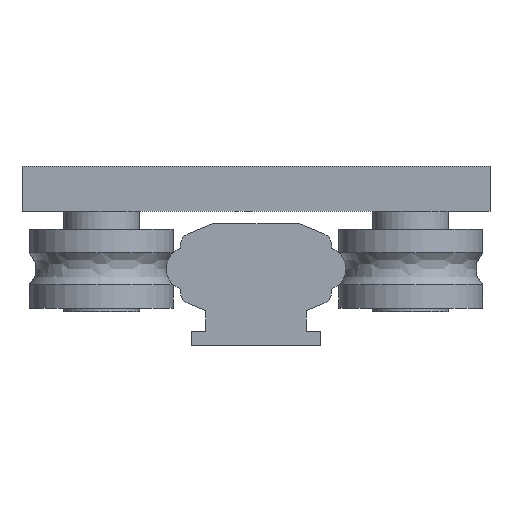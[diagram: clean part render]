
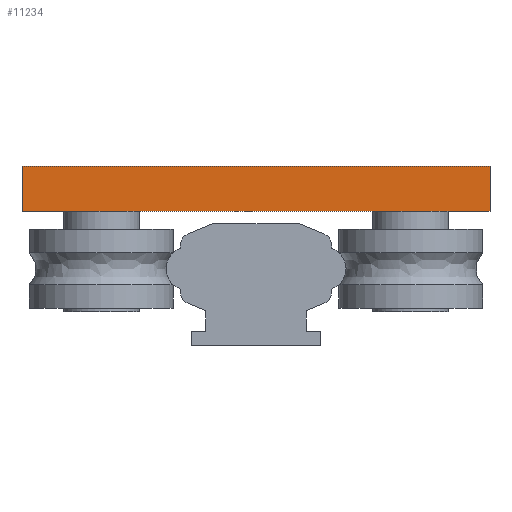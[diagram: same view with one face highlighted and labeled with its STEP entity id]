
A CAD part, left-side view. The second image highlights one B-rep face of the part: STEP entity #11234.
In plain terms, the highlighted planar face has unit normal (-1, 0, 0).
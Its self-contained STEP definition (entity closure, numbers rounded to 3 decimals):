
#11054=CARTESIAN_POINT('',(0.0,-32.5,14.25));
#11055=VERTEX_POINT('',#11054);
#11062=CARTESIAN_POINT('',(0.0,-32.5,8.0));
#11063=VERTEX_POINT('',#11062);
#11064=CARTESIAN_POINT('',(0.0,-32.5,14.25));
#11065=DIRECTION('',(0.0,0.0,-1.0));
#11066=VECTOR('',#11065,6.25);
#11067=LINE('',#11064,#11066);
#11068=EDGE_CURVE('',#11055,#11063,#11067,.T.);
#11092=CARTESIAN_POINT('',(0.0,32.5,14.25));
#11093=VERTEX_POINT('',#11092);
#11100=CARTESIAN_POINT('',(0.0,32.5,14.25));
#11101=DIRECTION('',(0.0,-1.0,0.0));
#11102=VECTOR('',#11101,65.0);
#11103=LINE('',#11100,#11102);
#11104=EDGE_CURVE('',#11093,#11055,#11103,.T.);
#11153=CARTESIAN_POINT('',(0.0,32.5,8.0));
#11154=VERTEX_POINT('',#11153);
#11161=CARTESIAN_POINT('',(0.0,32.5,8.0));
#11162=DIRECTION('',(0.0,0.0,1.0));
#11163=VECTOR('',#11162,6.25);
#11164=LINE('',#11161,#11163);
#11165=EDGE_CURVE('',#11154,#11093,#11164,.T.);
#11183=CARTESIAN_POINT('',(0.0,-32.5,8.0));
#11184=DIRECTION('',(0.0,1.0,0.0));
#11185=VECTOR('',#11184,65.0);
#11186=LINE('',#11183,#11185);
#11187=EDGE_CURVE('',#11063,#11154,#11186,.T.);
#11223=CARTESIAN_POINT('',(0.0,0.0,11.125));
#11224=DIRECTION('',(1.0,0.0,0.0));
#11225=DIRECTION('',(0.0,0.0,-1.0));
#11226=AXIS2_PLACEMENT_3D('',#11223,#11224,#11225);
#11227=PLANE('',#11226);
#11228=ORIENTED_EDGE('',*,*,#11187,.F.);
#11229=ORIENTED_EDGE('',*,*,#11068,.F.);
#11230=ORIENTED_EDGE('',*,*,#11104,.F.);
#11231=ORIENTED_EDGE('',*,*,#11165,.F.);
#11232=EDGE_LOOP('',(#11228,#11229,#11230,#11231));
#11233=FACE_OUTER_BOUND('',#11232,.T.);
#11234=ADVANCED_FACE('',(#11233),#11227,.F.);
